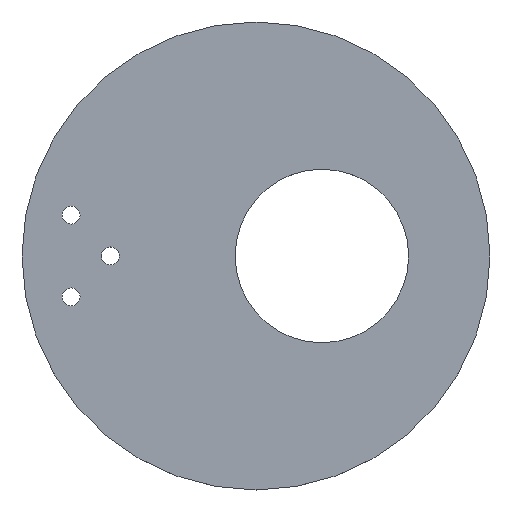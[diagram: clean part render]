
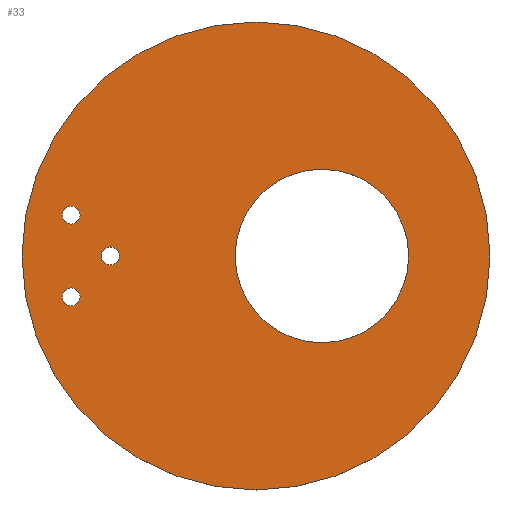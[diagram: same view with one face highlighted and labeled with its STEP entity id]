
A CAD part, top view. The second image highlights one B-rep face of the part: STEP entity #33.
In plain terms, the highlighted planar face has unit normal (0, 0, 1).
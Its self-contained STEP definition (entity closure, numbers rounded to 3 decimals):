
#33 = ADVANCED_FACE( '', ( #66, #67, #68, #69, #70 ), #71, .F. );
#66 = FACE_BOUND( '', #107, .T. );
#67 = FACE_BOUND( '', #108, .T. );
#68 = FACE_BOUND( '', #109, .T. );
#69 = FACE_BOUND( '', #110, .T. );
#70 = FACE_OUTER_BOUND( '', #111, .T. );
#71 = PLANE( '', #112 );
#107 = EDGE_LOOP( '', ( #144 ) );
#108 = EDGE_LOOP( '', ( #145 ) );
#109 = EDGE_LOOP( '', ( #146 ) );
#110 = EDGE_LOOP( '', ( #147 ) );
#111 = EDGE_LOOP( '', ( #148 ) );
#112 = AXIS2_PLACEMENT_3D( '', #149, #150, #151 );
#144 = ORIENTED_EDGE( '', *, *, #187, .T. );
#145 = ORIENTED_EDGE( '', *, *, #189, .T. );
#146 = ORIENTED_EDGE( '', *, *, #190, .T. );
#147 = ORIENTED_EDGE( '', *, *, #191, .T. );
#148 = ORIENTED_EDGE( '', *, *, #192, .F. );
#149 = CARTESIAN_POINT( '', ( 0., 0., 3. ) );
#150 = DIRECTION( '', ( 0., 0., -1. ) );
#151 = DIRECTION( '', ( -1., 0., 0. ) );
#187 = EDGE_CURVE( '', #205, #205, #206, .T. );
#189 = EDGE_CURVE( '', #208, #208, #209, .T. );
#190 = EDGE_CURVE( '', #210, #210, #211, .T. );
#191 = EDGE_CURVE( '', #212, #212, #213, .T. );
#192 = EDGE_CURVE( '', #214, #214, #215, .T. );
#205 = VERTEX_POINT( '', #232 );
#206 = CIRCLE( '', #233, 2.75 );
#208 = VERTEX_POINT( '', #235 );
#209 = CIRCLE( '', #236, 2.75 );
#210 = VERTEX_POINT( '', #237 );
#211 = CIRCLE( '', #238, 2.75 );
#212 = VERTEX_POINT( '', #239 );
#213 = CIRCLE( '', #240, 26.5 );
#214 = VERTEX_POINT( '', #241 );
#215 = CIRCLE( '', #242, 71.5 );
#232 = CARTESIAN_POINT( '', ( -44.5, -2.75, 3. ) );
#233 = AXIS2_PLACEMENT_3D( '', #259, #260, #261 );
#235 = CARTESIAN_POINT( '', ( -56.5, 9.75, 3. ) );
#236 = AXIS2_PLACEMENT_3D( '', #262, #263, #264 );
#237 = CARTESIAN_POINT( '', ( -56.5, -15.25, 3. ) );
#238 = AXIS2_PLACEMENT_3D( '', #265, #266, #267 );
#239 = CARTESIAN_POINT( '', ( 46.64, 0., 3. ) );
#240 = AXIS2_PLACEMENT_3D( '', #268, #269, #270 );
#241 = CARTESIAN_POINT( '', ( 71.5, 0., 3. ) );
#242 = AXIS2_PLACEMENT_3D( '', #271, #272, #273 );
#259 = CARTESIAN_POINT( '', ( -44.5, 0., 3. ) );
#260 = DIRECTION( '', ( 0., 0., -1. ) );
#261 = DIRECTION( '', ( 0., -1., 0. ) );
#262 = CARTESIAN_POINT( '', ( -56.5, 12.5, 3. ) );
#263 = DIRECTION( '', ( 0., 0., -1. ) );
#264 = DIRECTION( '', ( 0., -1., 0. ) );
#265 = CARTESIAN_POINT( '', ( -56.5, -12.5, 3. ) );
#266 = DIRECTION( '', ( 0., 0., -1. ) );
#267 = DIRECTION( '', ( 0., -1., 0. ) );
#268 = CARTESIAN_POINT( '', ( 20.14, 0., 3. ) );
#269 = DIRECTION( '', ( 0., 0., -1. ) );
#270 = DIRECTION( '', ( 1., 0., 0. ) );
#271 = CARTESIAN_POINT( '', ( 0., 0., 3. ) );
#272 = DIRECTION( '', ( 0., 0., -1. ) );
#273 = DIRECTION( '', ( 1., 0., 0. ) );
